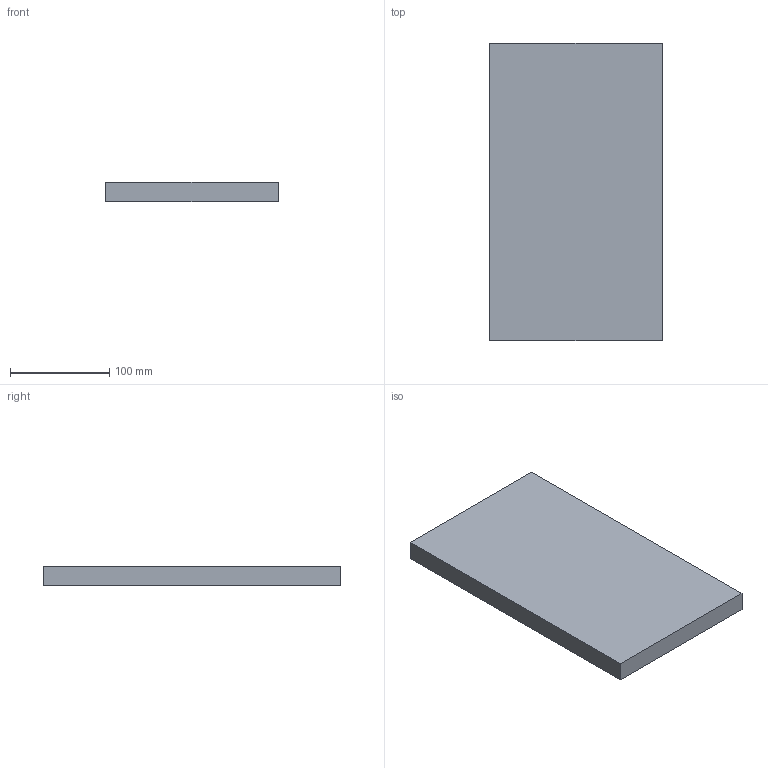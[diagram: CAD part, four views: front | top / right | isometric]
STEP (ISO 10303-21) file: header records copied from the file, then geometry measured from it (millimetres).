
FILE_DESCRIPTION(('Open CASCADE Model'),'2;1');
FILE_NAME('Open CASCADE Shape Model','2026-10-19T10:09:21',('Author'),( 'Open CASCADE'),'Open CASCADE STEP processor 8.0','Open CASCADE 8.0' ,'Unknown');
FILE_SCHEMA(('AUTOMOTIVE_DESIGN { 1 0 10303 214 1 1 1 1 }'));
Length unit declared in the file: millimetre
Products named in the file (1): BRT_RESPALDO_174x300x20_P05 135
Bounding box: 174 x 300 x 20 mm (x, y, z)
Volume: 1044000 mm3; surface area: 123360 mm2
Topology: 1 solids, 1 shells, 6 faces, 12 edges, 8 vertices
Faces by surface type: plane 6
Entity records: 322 total; most frequent: CARTESIAN_POINT 51, DIRECTION 50, LINE 36, VECTOR 36, ORIENTED_EDGE 24, PCURVE 24, DEFINITIONAL_REPRESENTATION 24, EDGE_CURVE 12
